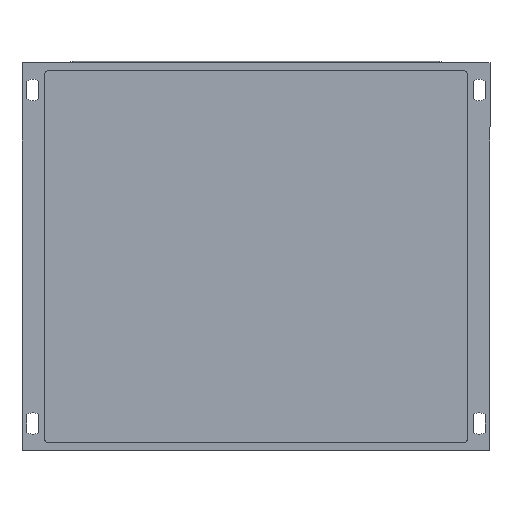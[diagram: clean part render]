
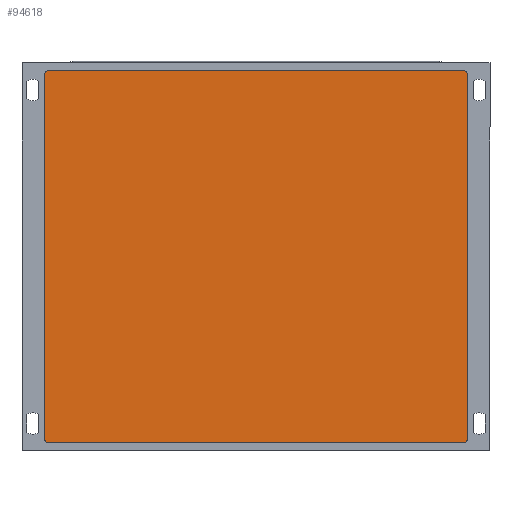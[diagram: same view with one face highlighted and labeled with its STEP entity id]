
A CAD part, front view. The second image highlights one B-rep face of the part: STEP entity #94618.
In plain terms, the highlighted planar face has unit normal (0, -1, -0.007).
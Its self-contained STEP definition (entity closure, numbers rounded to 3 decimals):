
#94336=CARTESIAN_POINT('',(-4.5,-152.457,-68.326));
#94337=VERTEX_POINT('',#94336);
#94338=CARTESIAN_POINT('',(-5.5,-152.463,-67.326));
#94339=VERTEX_POINT('',#94338);
#94340=CARTESIAN_POINT('',(-4.5,-152.463,-67.326));
#94341=DIRECTION('',(0.,1.,0.007));
#94342=DIRECTION('',(-0.707,0.005,-0.707));
#94343=AXIS2_PLACEMENT_3D('',#94340,#94341,#94342);
#94344=CIRCLE('',#94343,1.0);
#94345=EDGE_CURVE('',#94337,#94339,#94344,.T.);
#94387=CARTESIAN_POINT('',(109.5,-152.457,-68.326));
#94388=VERTEX_POINT('',#94387);
#94395=CARTESIAN_POINT('',(109.5,-152.457,-68.326));
#94396=DIRECTION('',(-1.0,0.0,0.0));
#94397=VECTOR('',#94396,114.);
#94398=LINE('',#94395,#94397);
#94399=EDGE_CURVE('',#94388,#94337,#94398,.T.);
#94468=CARTESIAN_POINT('',(110.5,-152.463,-67.326));
#94469=VERTEX_POINT('',#94468);
#94470=CARTESIAN_POINT('',(109.5,-152.463,-67.326));
#94471=DIRECTION('',(0.,1.,0.007));
#94472=DIRECTION('',(0.707,0.005,-0.707));
#94473=AXIS2_PLACEMENT_3D('',#94470,#94471,#94472);
#94474=CIRCLE('',#94473,1.0);
#94475=EDGE_CURVE('',#94469,#94388,#94474,.T.);
#94495=CARTESIAN_POINT('',(110.5,-153.138,32.671));
#94496=VERTEX_POINT('',#94495);
#94503=CARTESIAN_POINT('',(110.5,-153.138,32.671));
#94504=DIRECTION('',(0.,0.007,-1.));
#94505=VECTOR('',#94504,100.);
#94506=LINE('',#94503,#94505);
#94507=EDGE_CURVE('',#94496,#94469,#94506,.T.);
#94517=CARTESIAN_POINT('',(-5.5,-153.138,32.671));
#94518=VERTEX_POINT('',#94517);
#94519=CARTESIAN_POINT('',(-4.5,-153.144,33.671));
#94520=VERTEX_POINT('',#94519);
#94521=CARTESIAN_POINT('',(-4.5,-153.138,32.671));
#94522=DIRECTION('',(0.,1.,0.007));
#94523=DIRECTION('',(-0.707,-0.005,0.707));
#94524=AXIS2_PLACEMENT_3D('',#94521,#94522,#94523);
#94525=CIRCLE('',#94524,1.0);
#94526=EDGE_CURVE('',#94518,#94520,#94525,.T.);
#94550=CARTESIAN_POINT('',(-5.5,-152.463,-67.326));
#94551=DIRECTION('',(0.,-0.007,1.));
#94552=VECTOR('',#94551,100.);
#94553=LINE('',#94550,#94552);
#94554=EDGE_CURVE('',#94339,#94518,#94553,.T.);
#94566=CARTESIAN_POINT('',(109.5,-153.144,33.671));
#94567=VERTEX_POINT('',#94566);
#94568=CARTESIAN_POINT('',(109.5,-153.138,32.671));
#94569=DIRECTION('',(0.,1.,0.007));
#94570=DIRECTION('',(0.707,-0.005,0.707));
#94571=AXIS2_PLACEMENT_3D('',#94568,#94569,#94570);
#94572=CIRCLE('',#94571,1.0);
#94573=EDGE_CURVE('',#94567,#94496,#94572,.T.);
#94592=CARTESIAN_POINT('',(-4.5,-153.144,33.671));
#94593=DIRECTION('',(1.0,0.0,0.0));
#94594=VECTOR('',#94593,114.);
#94595=LINE('',#94592,#94594);
#94596=EDGE_CURVE('',#94520,#94567,#94595,.T.);
#94603=CARTESIAN_POINT('',(52.5,-152.8,-17.327));
#94604=DIRECTION('',(0.,-1.,-0.007));
#94605=DIRECTION('',(0.,0.007,-1.));
#94606=AXIS2_PLACEMENT_3D('',#94603,#94604,#94605);
#94607=PLANE('',#94606);
#94608=ORIENTED_EDGE('',*,*,#94345,.F.);
#94609=ORIENTED_EDGE('',*,*,#94399,.F.);
#94610=ORIENTED_EDGE('',*,*,#94475,.F.);
#94611=ORIENTED_EDGE('',*,*,#94507,.F.);
#94612=ORIENTED_EDGE('',*,*,#94573,.F.);
#94613=ORIENTED_EDGE('',*,*,#94596,.F.);
#94614=ORIENTED_EDGE('',*,*,#94526,.F.);
#94615=ORIENTED_EDGE('',*,*,#94554,.F.);
#94616=EDGE_LOOP('',(#94608,#94609,#94610,#94611,#94612,#94613,#94614,#94615));
#94617=FACE_OUTER_BOUND('',#94616,.T.);
#94618=ADVANCED_FACE('',(#94617),#94607,.T.);
